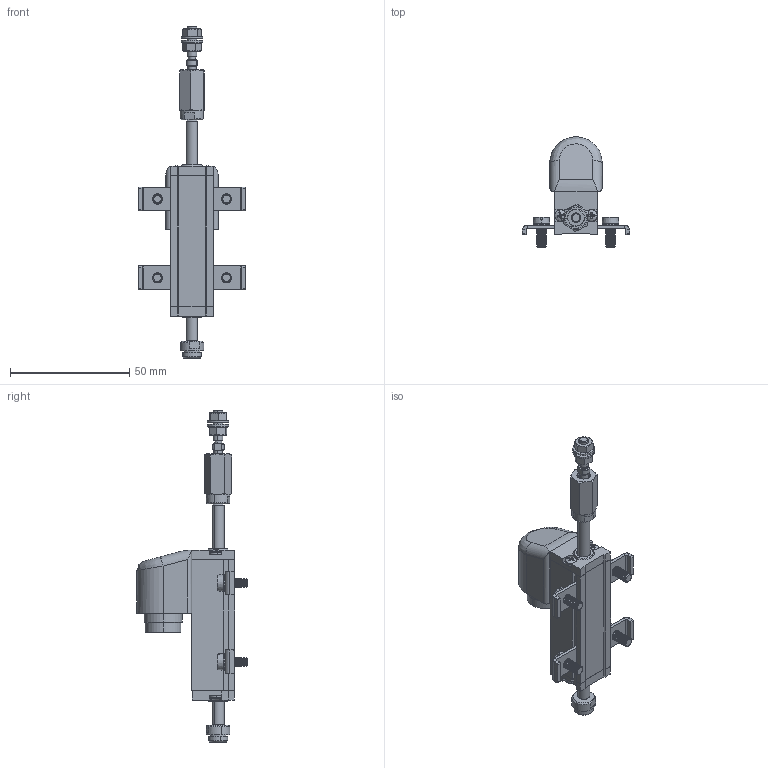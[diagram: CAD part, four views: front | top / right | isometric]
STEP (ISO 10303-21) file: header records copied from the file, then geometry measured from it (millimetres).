
FILE_DESCRIPTION (( 'STEP AP203' ), '1' );
FILE_NAME ('PY-1-C-025.STEP', '2016-06-01T14:13:42', ( '' ), ( '' ), 'SwSTEP 2.0', 'SolidWorks 2015', '' );
FILE_SCHEMA (( 'CONFIG_CONTROL_DESIGN' ));
Length unit declared in the file: millimetre
Products named in the file (19): MIM501X_MIM501; MIM510X_DIN 6905-3.6-FSt; MIM828X_ISO 7045 - M2.5 x 8 - Z --- 8S; MIM500X_DIN 6798-J4.3; MIM892X_ISO 1207 - M4 x 10 --- 10S; CON010X; PKIT020X; BUS025X; CNT007X; PY-1-C-025; ALB045X; CUS100X; FLA000X; ALB100X; TES053X; CUS045X; MIM201X_MIM201; STA029X; TES049X
Assembly tree (34 placements, depth 3):
  PY-1-C-025
    CUS045X
    TES049X
    MIM828X_ISO 7045 - M2.5 x 8 - Z --- 8S  x4
    CON010X
    CNT007X  x2
    TES053X
    STA029X  x4
    MIM510X_DIN 6905-3.6-FSt  x4
    MIM892X_ISO 1207 - M4 x 10 --- 10S  x4
    BUS025X  x2
    ALB045X
    PKIT020X
      CUS100X
      FLA000X
      ALB100X
      MIM201X_MIM201  x2
      MIM501X_MIM501  x2
      MIM500X_DIN 6798-J4.3
Bounding box: 45 x 46.3 x 139.45 mm (x, y, z)
Volume: 35289.4 mm3; surface area: 22137.7 mm2
Topology: 32 solids, 38 shells, 1577 faces, 3922 edges, 2410 vertices
Faces by surface type: cone 692, cylinder 452, plane 344, torus 50, bspline 27, sphere 12
Entity records: 23350 total; most frequent: CARTESIAN_POINT 4518, DIRECTION 3702, ORIENTED_EDGE 3276, EDGE_CURVE 1643, AXIS2_PLACEMENT_3D 1502, VERTEX_POINT 1026, CIRCLE 802, EDGE_LOOP 748
